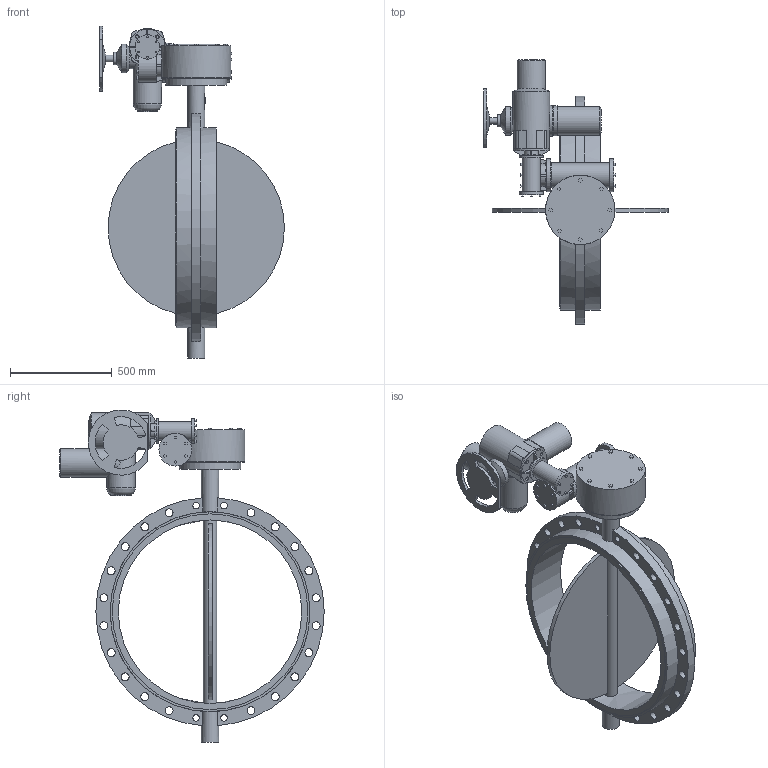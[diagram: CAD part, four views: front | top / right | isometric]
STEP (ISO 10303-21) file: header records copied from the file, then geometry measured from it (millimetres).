
FILE_DESCRIPTION(('STEP AP203'), '1');
FILE_NAME('青蜮铕 017W.YS_DN900_PN16_MT903.A30', '', ('UNSPECIFIED'), ('UNSPECIFIED'), 'ASCON STEP Converter 1.6', 'ASCON Math Kernel', '');
FILE_SCHEMA(('CONFIG_CONTROL_DESIGN'));
Length unit declared in the file: millimetre
Bounding box: 906.35 x 1297 x 1628.49 mm (x, y, z)
Volume: 92640071.1 mm3; surface area: 4718907.4 mm2
Topology: 1 solids, 1 shells, 558 faces, 1442 edges, 950 vertices
Faces by surface type: plane 400, cylinder 111, cone 25, torus 20, bspline 2
Full cylindrical faces by diameter (mm): 13.835 x8, 14 x4, 18 x12, 31.67 x4, 32 x1, 39 x20, 60 x1, 65 x1, 85 x2, 90 x1, 100 x1, 120 x2, 121 x1, 140 x4, 147 x1, 151 x1, 161 x3, 175 x1, 300 x1, 340 x1, 900 x1, 960 x2, 980 x2
Entity records: 24423 total; most frequent: CARTESIAN_POINT 6565, ORIENTED_EDGE 2658, DIRECTION 2629, EDGE_CURVE 1329, LINE 957, VECTOR 957, VERTEX_POINT 941, AXIS2_PLACEMENT_3D 836
